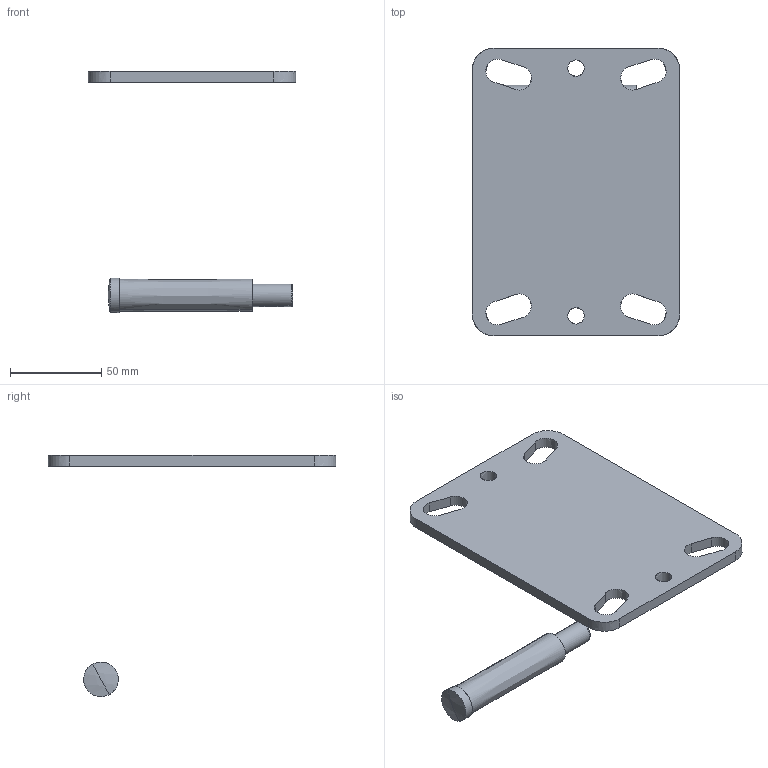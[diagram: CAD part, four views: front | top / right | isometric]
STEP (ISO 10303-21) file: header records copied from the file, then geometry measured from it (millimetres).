
FILE_DESCRIPTION (( 'STEP AP203' ), '1' );
FILE_NAME ('KTU-150WK-GS-11.STEP', '2019-09-25T07:31:56', ( '' ), ( '' ), 'SwSTEP 2.0', 'SolidWorks 2010', '' );
FILE_SCHEMA (( 'CONFIG_CONTROL_DESIGN' ));
Length unit declared in the file: millimetre
Products named in the file (1): KTU-150WK-GS-11
Bounding box: 114 x 158 x 132.5 mm (x, y, z)
Volume: 139160 mm3; surface area: 48496.1 mm2
Topology: 3 solids, 3 shells, 47 faces, 116 edges, 75 vertices
Faces by surface type: bspline 28, plane 19
Entity records: 3832 total; most frequent: CARTESIAN_POINT 2844, ORIENTED_EDGE 228, EDGE_CURVE 114, DIRECTION 88, VERTEX_POINT 75, B_SPLINE_CURVE_WITH_KNOTS 66, EDGE_LOOP 61, VECTOR 48
